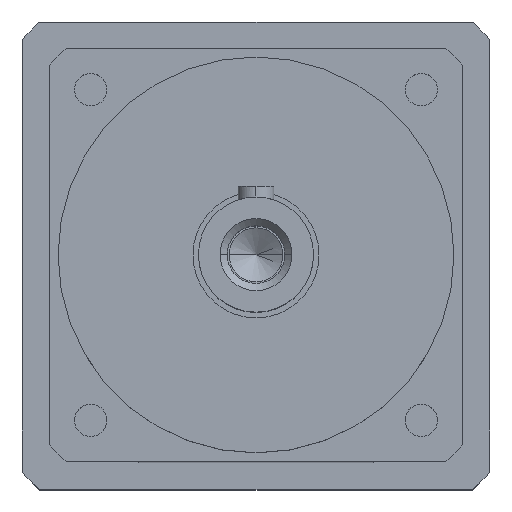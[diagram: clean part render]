
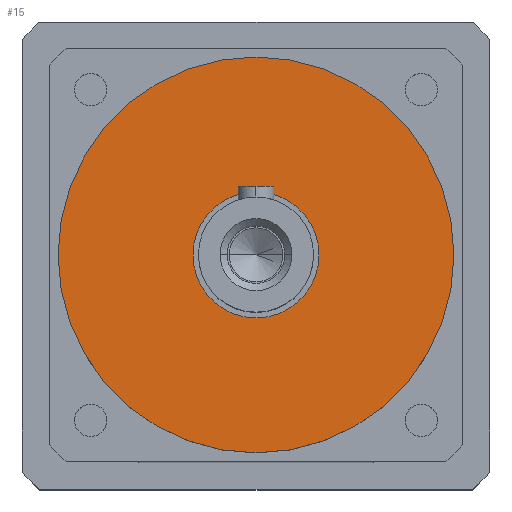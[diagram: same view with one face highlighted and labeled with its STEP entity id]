
A CAD part, top view. The second image highlights one B-rep face of the part: STEP entity #15.
In plain terms, the highlighted planar face has unit normal (0, 0, 1).
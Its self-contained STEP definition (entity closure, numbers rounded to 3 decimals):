
#15 = ADVANCED_FACE ( 'NONE', ( #2304, #614 ), #1728, .F. ) ;
#123 = DIRECTION ( 'NONE',  ( 0., 0., -1. ) ) ;
#128 = CIRCLE ( 'NONE', #3864, 17.5 ) ;
#199 = CARTESIAN_POINT ( 'NONE',  ( 0., 0., 12. ) ) ;
#261 = CARTESIAN_POINT ( 'NONE',  ( -17.5, 0., 12. ) ) ;
#276 = DIRECTION ( 'NONE',  ( 0., 0., -1. ) ) ;
#375 = DIRECTION ( 'NONE',  ( -1., 0., 0. ) ) ;
#398 = DIRECTION ( 'NONE',  ( 0., 0., -1. ) ) ;
#407 = CARTESIAN_POINT ( 'NONE',  ( 0., 0., 12. ) ) ;
#614 = FACE_OUTER_BOUND ( 'NONE', #3387, .T. ) ;
#789 = EDGE_CURVE ( 'NONE', #2030, #3559, #2251, .T. ) ;
#793 = ORIENTED_EDGE ( 'NONE', *, *, #789, .T. ) ;
#851 = AXIS2_PLACEMENT_3D ( 'NONE', #2061, #1717, #1706 ) ;
#949 = EDGE_CURVE ( 'NONE', #1528, #1500, #3321, .T. ) ;
#996 = CARTESIAN_POINT ( 'NONE',  ( -55., 0., 12. ) ) ;
#1094 = AXIS2_PLACEMENT_3D ( 'NONE', #407, #398, #375 ) ;
#1348 = CARTESIAN_POINT ( 'NONE',  ( 55., 0., 12. ) ) ;
#1500 = VERTEX_POINT ( 'NONE', #1348 ) ;
#1528 = VERTEX_POINT ( 'NONE', #996 ) ;
#1553 = CARTESIAN_POINT ( 'NONE',  ( 17.5, 0., 12. ) ) ;
#1626 = DIRECTION ( 'NONE',  ( 0., 0., -1. ) ) ;
#1706 = DIRECTION ( 'NONE',  ( -1., 0., 0. ) ) ;
#1717 = DIRECTION ( 'NONE',  ( 0., 0., -1. ) ) ;
#1728 = PLANE ( 'NONE',  #851 ) ;
#2030 = VERTEX_POINT ( 'NONE', #261 ) ;
#2035 = CARTESIAN_POINT ( 'NONE',  ( 0., 0., 12. ) ) ;
#2061 = CARTESIAN_POINT ( 'NONE',  ( 0., 0., 12. ) ) ;
#2242 = AXIS2_PLACEMENT_3D ( 'NONE', #3482, #1626, #3773 ) ;
#2251 = CIRCLE ( 'NONE', #1094, 17.5 ) ;
#2304 = FACE_BOUND ( 'NONE', #2839, .T. ) ;
#2309 = CIRCLE ( 'NONE', #2242, 55. ) ;
#2337 = DIRECTION ( 'NONE',  ( -1., 0., 0. ) ) ;
#2559 = ORIENTED_EDGE ( 'NONE', *, *, #949, .F. ) ;
#2839 = EDGE_LOOP ( 'NONE', ( #793, #3344 ) ) ;
#2993 = AXIS2_PLACEMENT_3D ( 'NONE', #199, #276, #3085 ) ;
#3085 = DIRECTION ( 'NONE',  ( -1., 0., 0. ) ) ;
#3102 = EDGE_CURVE ( 'NONE', #1500, #1528, #2309, .T. ) ;
#3321 = CIRCLE ( 'NONE', #2993, 55. ) ;
#3344 = ORIENTED_EDGE ( 'NONE', *, *, #3808, .T. ) ;
#3382 = ORIENTED_EDGE ( 'NONE', *, *, #3102, .F. ) ;
#3387 = EDGE_LOOP ( 'NONE', ( #2559, #3382 ) ) ;
#3482 = CARTESIAN_POINT ( 'NONE',  ( 0., 0., 12. ) ) ;
#3559 = VERTEX_POINT ( 'NONE', #1553 ) ;
#3773 = DIRECTION ( 'NONE',  ( -1., 0., 0. ) ) ;
#3808 = EDGE_CURVE ( 'NONE', #3559, #2030, #128, .T. ) ;
#3864 = AXIS2_PLACEMENT_3D ( 'NONE', #2035, #123, #2337 ) ;
